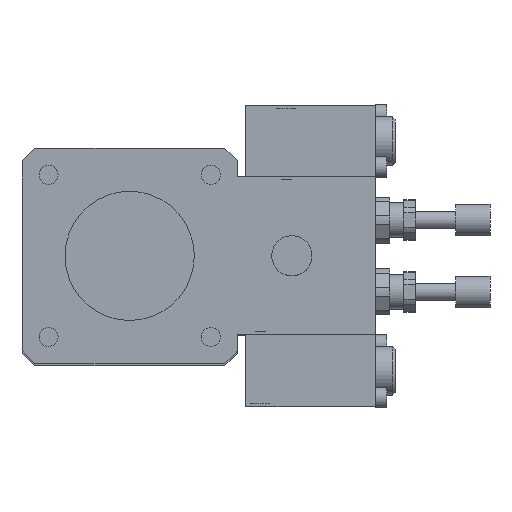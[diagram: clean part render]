
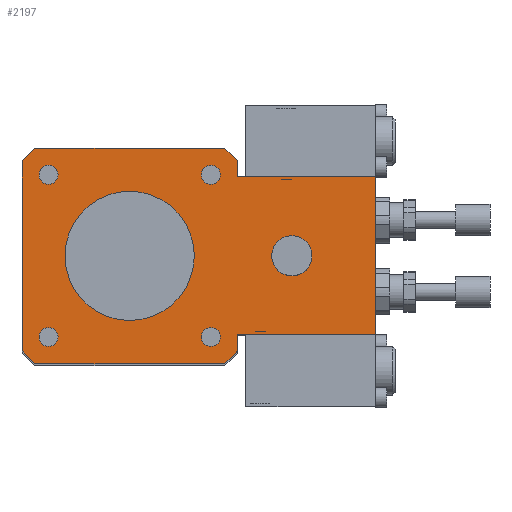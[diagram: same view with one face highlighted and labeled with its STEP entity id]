
A CAD part, top view. The second image highlights one B-rep face of the part: STEP entity #2197.
In plain terms, the highlighted planar face has unit normal (0, 0, 1).
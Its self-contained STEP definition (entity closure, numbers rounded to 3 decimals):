
#133=CARTESIAN_POINT('',(-28.25,24.927,446.0));
#134=VERTEX_POINT('',#133);
#135=CARTESIAN_POINT('',(-28.25,28.25,446.0));
#136=DIRECTION('',(0.0,0.0,-1.0));
#137=DIRECTION('',(0.0,-1.0,0.0));
#138=AXIS2_PLACEMENT_3D('',#135,#136,#137);
#139=CIRCLE('',#138,3.324);
#140=EDGE_CURVE('',#134,#134,#139,.T.);
#191=CARTESIAN_POINT('',(24.927,28.25,446.0));
#192=VERTEX_POINT('',#191);
#193=CARTESIAN_POINT('',(28.25,28.25,446.0));
#194=DIRECTION('',(0.0,0.0,-1.0));
#195=DIRECTION('',(-1.0,0.0,0.0));
#196=AXIS2_PLACEMENT_3D('',#193,#194,#195);
#197=CIRCLE('',#196,3.324);
#198=EDGE_CURVE('',#192,#192,#197,.T.);
#249=CARTESIAN_POINT('',(28.25,-24.927,446.0));
#250=VERTEX_POINT('',#249);
#251=CARTESIAN_POINT('',(28.25,-28.25,446.0));
#252=DIRECTION('',(0.0,0.0,-1.0));
#253=DIRECTION('',(0.0,1.0,0.0));
#254=AXIS2_PLACEMENT_3D('',#251,#252,#253);
#255=CIRCLE('',#254,3.324);
#256=EDGE_CURVE('',#250,#250,#255,.T.);
#307=CARTESIAN_POINT('',(-24.927,-28.25,446.0));
#308=VERTEX_POINT('',#307);
#309=CARTESIAN_POINT('',(-28.25,-28.25,446.0));
#310=DIRECTION('',(0.0,0.0,-1.0));
#311=DIRECTION('',(1.0,0.0,0.0));
#312=AXIS2_PLACEMENT_3D('',#309,#310,#311);
#313=CIRCLE('',#312,3.324);
#314=EDGE_CURVE('',#308,#308,#313,.T.);
#791=CARTESIAN_POINT('',(50.,0.0,446.0));
#792=VERTEX_POINT('',#791);
#793=CARTESIAN_POINT('',(56.5,0.0,446.0));
#794=DIRECTION('',(0.0,0.0,-1.0));
#795=DIRECTION('',(-1.0,0.0,0.0));
#796=AXIS2_PLACEMENT_3D('',#793,#794,#795);
#797=CIRCLE('',#796,6.5);
#798=EDGE_CURVE('',#792,#792,#797,.T.);
#1418=CARTESIAN_POINT('',(85.5,27.5,446.0));
#1419=VERTEX_POINT('',#1418);
#1444=CARTESIAN_POINT('',(37.5,27.5,446.0));
#1445=VERTEX_POINT('',#1444);
#1452=CARTESIAN_POINT('',(37.5,27.5,446.0));
#1453=DIRECTION('',(1.0,0.0,0.0));
#1454=VECTOR('',#1453,48.);
#1455=LINE('',#1452,#1454);
#1456=EDGE_CURVE('',#1445,#1419,#1455,.T.);
#1512=CARTESIAN_POINT('',(85.5,-27.5,446.0));
#1513=VERTEX_POINT('',#1512);
#1520=CARTESIAN_POINT('',(37.5,-27.5,446.0));
#1521=VERTEX_POINT('',#1520);
#1522=CARTESIAN_POINT('',(37.5,-27.5,446.0));
#1523=DIRECTION('',(1.0,0.0,0.0));
#1524=VECTOR('',#1523,48.);
#1525=LINE('',#1522,#1524);
#1526=EDGE_CURVE('',#1521,#1513,#1525,.T.);
#1581=CARTESIAN_POINT('',(85.5,-27.5,446.0));
#1582=DIRECTION('',(0.0,1.0,0.0));
#1583=VECTOR('',#1582,55.0);
#1584=LINE('',#1581,#1583);
#1585=EDGE_CURVE('',#1513,#1419,#1584,.T.);
#1604=CARTESIAN_POINT('',(37.5,-33.072,446.0));
#1605=VERTEX_POINT('',#1604);
#1606=CARTESIAN_POINT('',(37.5,-27.5,446.0));
#1607=DIRECTION('',(0.0,-1.0,0.0));
#1608=VECTOR('',#1607,5.572);
#1609=LINE('',#1606,#1608);
#1610=EDGE_CURVE('',#1521,#1605,#1609,.T.);
#1643=CARTESIAN_POINT('',(37.5,33.072,446.0));
#1644=VERTEX_POINT('',#1643);
#1651=CARTESIAN_POINT('',(37.5,33.072,446.0));
#1652=DIRECTION('',(0.0,-1.0,0.0));
#1653=VECTOR('',#1652,5.572);
#1654=LINE('',#1651,#1653);
#1655=EDGE_CURVE('',#1644,#1445,#1654,.T.);
#1682=CARTESIAN_POINT('',(-22.5,0.0,446.0));
#1683=VERTEX_POINT('',#1682);
#1684=CARTESIAN_POINT('',(0.0,0.0,446.0));
#1685=DIRECTION('',(0.0,0.0,-1.0));
#1686=DIRECTION('',(-1.0,0.0,0.0));
#1687=AXIS2_PLACEMENT_3D('',#1684,#1685,#1686);
#1688=CIRCLE('',#1687,22.5);
#1689=EDGE_CURVE('',#1683,#1683,#1688,.T.);
#1997=CARTESIAN_POINT('',(33.072,37.5,446.0));
#1998=VERTEX_POINT('',#1997);
#1999=CARTESIAN_POINT('',(0.,0.,446.0));
#2000=DIRECTION('',(0.,0.,-1.0));
#2001=DIRECTION('',(-0.75,-0.661,0.));
#2002=AXIS2_PLACEMENT_3D('',#1999,#2000,#2001);
#2003=CIRCLE('',#2002,50.0);
#2004=EDGE_CURVE('',#1998,#1644,#2003,.T.);
#2022=CARTESIAN_POINT('',(33.072,-37.5,446.0));
#2023=VERTEX_POINT('',#2022);
#2024=CARTESIAN_POINT('',(0.,0.,446.0));
#2025=DIRECTION('',(0.,0.,-1.));
#2026=DIRECTION('',(-0.661,0.75,0.));
#2027=AXIS2_PLACEMENT_3D('',#2024,#2025,#2026);
#2028=CIRCLE('',#2027,50.);
#2029=EDGE_CURVE('',#1605,#2023,#2028,.T.);
#2047=CARTESIAN_POINT('',(-33.072,-37.5,446.0));
#2048=VERTEX_POINT('',#2047);
#2049=CARTESIAN_POINT('',(33.072,-37.5,446.0));
#2050=DIRECTION('',(-1.0,0.0,0.0));
#2051=VECTOR('',#2050,66.144);
#2052=LINE('',#2049,#2051);
#2053=EDGE_CURVE('',#2023,#2048,#2052,.T.);
#2074=CARTESIAN_POINT('',(-37.5,-33.072,446.0));
#2075=VERTEX_POINT('',#2074);
#2076=CARTESIAN_POINT('',(0.,0.,446.0));
#2077=DIRECTION('',(0.,0.,-1.0));
#2078=DIRECTION('',(0.75,0.661,0.));
#2079=AXIS2_PLACEMENT_3D('',#2076,#2077,#2078);
#2080=CIRCLE('',#2079,50.);
#2081=EDGE_CURVE('',#2048,#2075,#2080,.T.);
#2099=CARTESIAN_POINT('',(-37.5,33.072,446.0));
#2100=VERTEX_POINT('',#2099);
#2101=CARTESIAN_POINT('',(-37.5,-33.072,446.0));
#2102=DIRECTION('',(0.0,1.0,0.0));
#2103=VECTOR('',#2102,66.144);
#2104=LINE('',#2101,#2103);
#2105=EDGE_CURVE('',#2075,#2100,#2104,.T.);
#2123=CARTESIAN_POINT('',(-33.072,37.5,446.0));
#2124=VERTEX_POINT('',#2123);
#2125=CARTESIAN_POINT('',(0.,0.,446.0));
#2126=DIRECTION('',(0.,0.,-1.));
#2127=DIRECTION('',(0.661,-0.75,0.));
#2128=AXIS2_PLACEMENT_3D('',#2125,#2126,#2127);
#2129=CIRCLE('',#2128,50.0);
#2130=EDGE_CURVE('',#2100,#2124,#2129,.T.);
#2148=CARTESIAN_POINT('',(-33.072,37.5,446.0));
#2149=DIRECTION('',(1.0,0.0,0.0));
#2150=VECTOR('',#2149,66.144);
#2151=LINE('',#2148,#2150);
#2152=EDGE_CURVE('',#2124,#1998,#2151,.T.);
#2160=CARTESIAN_POINT('',(0.,0.,446.0));
#2161=DIRECTION('',(0.0,0.0,1.0));
#2162=DIRECTION('',(1.0,0.0,0.0));
#2163=AXIS2_PLACEMENT_3D('',#2160,#2161,#2162);
#2164=PLANE('',#2163);
#2165=ORIENTED_EDGE('',*,*,#2004,.F.);
#2166=ORIENTED_EDGE('',*,*,#2152,.F.);
#2167=ORIENTED_EDGE('',*,*,#2130,.F.);
#2168=ORIENTED_EDGE('',*,*,#2105,.F.);
#2169=ORIENTED_EDGE('',*,*,#2081,.F.);
#2170=ORIENTED_EDGE('',*,*,#2053,.F.);
#2171=ORIENTED_EDGE('',*,*,#2029,.F.);
#2172=ORIENTED_EDGE('',*,*,#1610,.F.);
#2173=ORIENTED_EDGE('',*,*,#1526,.T.);
#2174=ORIENTED_EDGE('',*,*,#1585,.T.);
#2175=ORIENTED_EDGE('',*,*,#1456,.F.);
#2176=ORIENTED_EDGE('',*,*,#1655,.F.);
#2177=EDGE_LOOP('',(#2165,#2166,#2167,#2168,#2169,#2170,#2171,#2172,#2173,#2174,#2175,#2176));
#2178=FACE_OUTER_BOUND('',#2177,.T.);
#2179=ORIENTED_EDGE('',*,*,#140,.T.);
#2180=EDGE_LOOP('',(#2179));
#2181=FACE_BOUND('',#2180,.T.);
#2182=ORIENTED_EDGE('',*,*,#198,.T.);
#2183=EDGE_LOOP('',(#2182));
#2184=FACE_BOUND('',#2183,.T.);
#2185=ORIENTED_EDGE('',*,*,#256,.T.);
#2186=EDGE_LOOP('',(#2185));
#2187=FACE_BOUND('',#2186,.T.);
#2188=ORIENTED_EDGE('',*,*,#314,.T.);
#2189=EDGE_LOOP('',(#2188));
#2190=FACE_BOUND('',#2189,.T.);
#2191=ORIENTED_EDGE('',*,*,#798,.T.);
#2192=EDGE_LOOP('',(#2191));
#2193=FACE_BOUND('',#2192,.T.);
#2194=ORIENTED_EDGE('',*,*,#1689,.T.);
#2195=EDGE_LOOP('',(#2194));
#2196=FACE_BOUND('',#2195,.T.);
#2197=ADVANCED_FACE('',(#2178,#2181,#2184,#2187,#2190,#2193,#2196),#2164,.T.);
